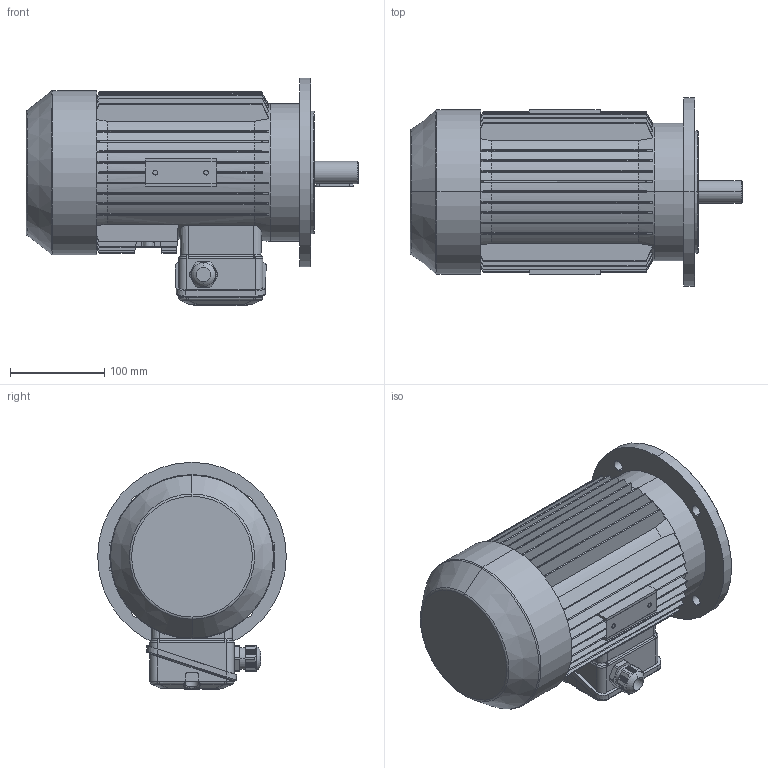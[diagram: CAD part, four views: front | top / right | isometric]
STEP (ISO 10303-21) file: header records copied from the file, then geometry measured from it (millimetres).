
FILE_DESCRIPTION (( 'STEP AP214' ), '1' );
FILE_NAME ('MAP90L2A IM3041 A200 FF165.STEP', '2020-12-21T15:01:28', ( '' ), ( '' ), 'SwSTEP 2.0', 'SolidWorks 2018', '' );
FILE_SCHEMA (( 'AUTOMOTIVE_DESIGN' ));
Length unit declared in the file: millimetre
Products named in the file (1): MAP90L2A IM3041 A200 FF165
Bounding box: 352 x 200 x 241 mm (x, y, z)
Volume: 5969865.6 mm3; surface area: 526937.5 mm2
Topology: 2 solids, 8 shells, 1211 faces, 3218 edges, 2056 vertices
Faces by surface type: plane 528, cylinder 288, bspline 180, cone 142, torus 71, sphere 2
Entity records: 49188 total; most frequent: CARTESIAN_POINT 21266, ORIENTED_EDGE 6432, DIRECTION 5038, EDGE_CURVE 3216, VERTEX_POINT 2056, AXIS2_PLACEMENT_3D 1785, VECTOR 1468, LINE 1468
